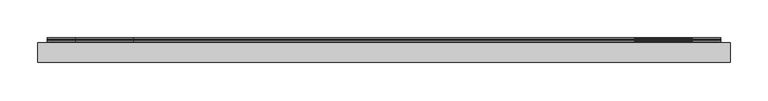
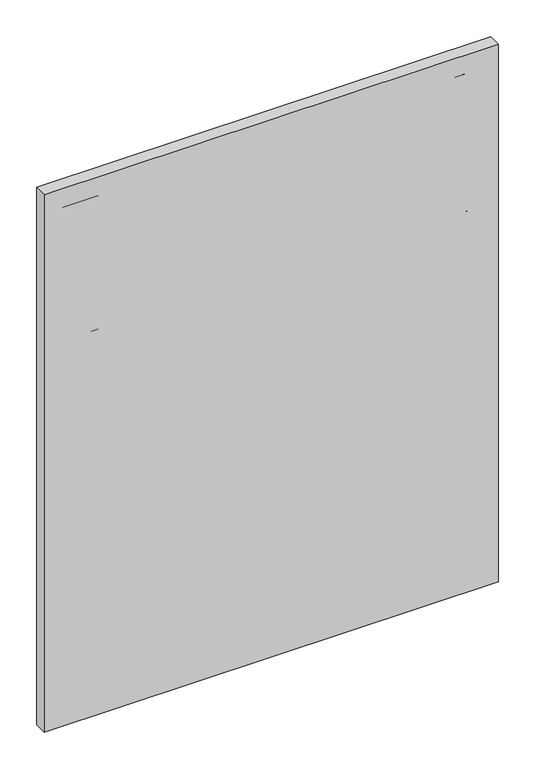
"""IFC4 building model written with IfcOpenShell, lengths in millimetres: furniture geometry, Geiger_GeigerOneCasegoods_WallTileTopTileorWallMounted : Vertical Veneer 36Wx 1.25Dx 45H."""

from ifc_helpers import new_model, si_unit, point, frame, frame_2d, origin, origin_with_axes, place, context, project, spatial, polyline, circle_curve, trimmed, segment, composite_curve, outline, extrude, source, transform, mapped, element, save


def furniture_460bbc34(model_context):
    return source(origin(), model_context, "Body", "SweptSolid", [
        extrude(outline(composite_curve([segment(polyline([(2.8956, 38.227), (2.8956, 31.2928), (3.7084, 30.5054), (5.6134, 30.5054), (6.4008, 29.6926), (6.4008, -2.0066), (5.1054, -2.0066), (3.5052, -0.4064), (3.5052, 24.1808), (2.6924, 24.9936), (0.8128, 24.9936), (0.0, 25.781), (0.0, 39.1922)]), True, "CONTINUOUS"), segment(trimmed(circle_curve(frame_2d((0.8034421, 39.1828421)), 0.8034966), [point((0.0, 39.1922))], [point((1.3716, 39.751))], False, "CARTESIAN"), True, "CONTINUOUS"), segment(polyline([(1.3716, 39.751), (2.8956, 38.227)]), True, "CONTINUOUS")], self_intersect=False)), frame((12.5, 0.0, 0.0), z_axis=(1.0, 0.0, 0.0), x_axis=(0.0, 1.0, 0.0)), (0.0, 0.0, 1.0), 888.0),
        extrude(outline(composite_curve([segment(polyline([(-2.8956, 808.354), (-2.8956, 832.9412), (-1.2954, 834.5414), (0.0, 834.5414), (0.0, 802.8422), (-0.7864312, 802.0304), (-2.6913677, 802.0304), (-3.5052, 801.242), (-3.5052, 794.3078), (-5.0292, 792.7838)]), True, "CONTINUOUS"), segment(trimmed(circle_curve(frame_2d((-5.5973579, 793.3519579)), 0.8034966), [point((-5.0292, 792.7838))], [point((-6.4008, 793.3426))], False, "CARTESIAN"), True, "CONTINUOUS"), segment(polyline([(-6.4008, 793.3426), (-6.4008, 806.7538), (-5.588, 807.5412), (-3.7084, 807.5412), (-2.8956, 808.354)]), True, "CONTINUOUS")], self_intersect=False)), frame((787.0, 0.0, 0.0), z_axis=(1.0, 0.0, 0.0), x_axis=(0.0, 1.0, 0.0)), (0.0, 0.0, 1.0), 76.0),
        extrude(outline(composite_curve([segment(polyline([(3.5052, 794.3078), (3.5052, 801.242), (2.6913677, 802.0304), (0.7864312, 802.0304), (0.0, 802.8422), (0.0, 834.5414), (1.2954, 834.5414), (2.8956, 832.9412), (2.8956, 808.354), (3.7084, 807.5412), (5.588, 807.5412), (6.4008, 806.7538), (6.4008, 793.3426)]), True, "CONTINUOUS"), segment(trimmed(circle_curve(frame_2d((5.5973579, 793.3519579)), 0.8034966), [point((6.4008, 793.3426))], [point((5.0292, 792.7838))], False, "CARTESIAN"), True, "CONTINUOUS"), segment(polyline([(5.0292, 792.7838), (3.5052, 794.3078)]), True, "CONTINUOUS")], self_intersect=False)), frame((50.0, 0.0, 0.0), z_axis=(1.0, 0.0, 0.0), x_axis=(0.0, 1.0, 0.0)), (0.0, 0.0, 1.0), 76.0),
        extrude(outline(composite_curve([segment(polyline([(2.8956, 1091.8434), (3.7084, 1091.0306), (5.588, 1091.0306), (6.4008, 1090.2432), (6.4008, 1076.832)]), True, "CONTINUOUS"), segment(trimmed(circle_curve(frame_2d((5.5973579, 1076.8413579)), 0.8034966), [point((6.4008, 1076.832))], [point((5.0292, 1076.2732))], False, "CARTESIAN"), True, "CONTINUOUS"), segment(polyline([(5.0292, 1076.2732), (3.5052, 1077.7972), (3.5052, 1084.7314), (2.6913677, 1085.5198), (0.7864312, 1085.5198), (0.0, 1086.3316), (0.0, 1118.0308), (1.2954, 1118.0308), (2.8956, 1116.4306), (2.8956, 1091.8434)]), True, "CONTINUOUS")], self_intersect=False)), frame((787.0, 0.0, 0.0), z_axis=(1.0, 0.0, 0.0), x_axis=(0.0, 1.0, 0.0)), (0.0, 0.0, 1.0), 76.0),
        extrude(outline(composite_curve([segment(polyline([(3.5052, 1077.7972), (3.5052, 1084.7314), (2.6913677, 1085.5198), (0.7864312, 1085.5198), (0.0, 1086.3316), (0.0, 1118.0308), (1.2954, 1118.0308), (2.8956, 1116.4306), (2.8956, 1091.8434), (3.7084, 1091.0306), (5.588, 1091.0306), (6.4008, 1090.2432), (6.4008, 1076.832)]), True, "CONTINUOUS"), segment(trimmed(circle_curve(frame_2d((5.5973579, 1076.8413579)), 0.8034966), [point((6.4008, 1076.832))], [point((5.0292, 1076.2732))], False, "CARTESIAN"), True, "CONTINUOUS"), segment(polyline([(5.0292, 1076.2732), (3.5052, 1077.7972)]), True, "CONTINUOUS")], self_intersect=False)), frame((50.0, 0.0, 0.0), z_axis=(1.0, 0.0, 0.0), x_axis=(0.0, 1.0, 0.0)), (0.0, 0.0, 1.0), 76.0),
        extrude(outline(composite_curve([segment(polyline([(2.8956, 38.227), (2.8956, 31.2928), (3.7084, 30.5054), (5.6134, 30.5054), (6.4008, 29.6926), (6.4008, -2.0066), (5.1054, -2.0066), (3.5052, -0.4064), (3.5052, 24.1808), (2.6924, 24.9936), (0.8128, 24.9936), (0.0, 25.781), (0.0, 39.1922)]), True, "CONTINUOUS"), segment(trimmed(circle_curve(frame_2d((0.8034421, 39.1828421)), 0.8034966), [point((0.0, 39.1922))], [point((1.3716, 39.751))], False, "CARTESIAN"), True, "CONTINUOUS"), segment(polyline([(1.3716, 39.751), (2.8956, 38.227)]), True, "CONTINUOUS")], self_intersect=False)), frame((12.5, 0.0, 0.0), z_axis=(1.0, 0.0, 0.0), x_axis=(0.0, 1.0, 0.0)), (0.0, 0.0, 1.0), 888.0),
        extrude(outline(composite_curve([segment(polyline([(2.8956, 800.2524), (2.8956, 793.3182), (3.7084, 792.5308), (5.6134, 792.5308), (6.4008, 791.718), (6.4008, 760.0188), (5.1054, 760.0188), (3.5052, 761.619), (3.5052, 786.2062), (2.6924, 787.019), (0.8128, 787.019), (0.0, 787.8064), (0.0, 801.2176)]), True, "CONTINUOUS"), segment(trimmed(circle_curve(frame_2d((0.8034421, 801.2082421)), 0.8034966), [point((0.0, 801.2176))], [point((1.3716, 801.7764))], False, "CARTESIAN"), True, "CONTINUOUS"), segment(polyline([(1.3716, 801.7764), (2.8956, 800.2524)]), True, "CONTINUOUS")], self_intersect=False)), frame((12.5, 0.0, 0.0), z_axis=(1.0, 0.0, 0.0), x_axis=(0.0, 1.0, 0.0)), (0.0, 0.0, 1.0), 888.0),
        extrude(outline(composite_curve([segment(polyline([(2.8956, 1083.7418), (2.8956, 1076.8076), (3.7084, 1076.0202), (5.6134, 1076.0202), (6.4008, 1075.2074), (6.4008, 1043.5082), (5.1054, 1043.5082), (3.5052, 1045.1084), (3.5052, 1069.6956), (2.6924, 1070.5084), (0.8128, 1070.5084), (0.0, 1071.2958), (0.0, 1084.707)]), True, "CONTINUOUS"), segment(trimmed(circle_curve(frame_2d((0.8034421, 1084.6976421)), 0.8034966), [point((0.0, 1084.707))], [point((1.3716, 1085.2658))], False, "CARTESIAN"), True, "CONTINUOUS"), segment(polyline([(1.3716, 1085.2658), (2.8956, 1083.7418)]), True, "CONTINUOUS")], self_intersect=False)), frame((12.5, 0.0, 0.0), z_axis=(1.0, 0.0, 0.0), x_axis=(0.0, 1.0, 0.0)), (0.0, 0.0, 1.0), 888.0),
        extrude(outline(composite_curve([segment(polyline([(2.8956, 46.3286), (3.7084, 45.5158), (5.588, 45.5158), (6.4008, 44.7284), (6.4008, 31.3172)]), True, "CONTINUOUS"), segment(trimmed(circle_curve(frame_2d((5.5973579, 31.3265579)), 0.8034966), [point((6.4008, 31.3172))], [point((5.0292, 30.7584))], False, "CARTESIAN"), True, "CONTINUOUS"), segment(polyline([(5.0292, 30.7584), (3.5052, 32.2824), (3.5052, 39.2166), (2.6913677, 40.005), (0.7864312, 40.005), (0.0, 40.8168), (0.0, 72.516), (1.2954, 72.516), (2.8956, 70.9158), (2.8956, 46.3286)]), True, "CONTINUOUS")], self_intersect=False)), frame((787.0, 0.0, 0.0), z_axis=(1.0, 0.0, 0.0), x_axis=(0.0, 1.0, 0.0)), (0.0, 0.0, 1.0), 76.0),
        extrude(outline(composite_curve([segment(polyline([(3.5052, 32.2824), (3.5052, 39.2166), (2.6913677, 40.005), (0.7864312, 40.005), (0.0, 40.8168), (0.0, 72.516), (1.2954, 72.516), (2.8956, 70.9158), (2.8956, 46.3286), (3.7084, 45.5158), (5.588, 45.5158), (6.4008, 44.7284), (6.4008, 31.3172)]), True, "CONTINUOUS"), segment(trimmed(circle_curve(frame_2d((5.5973579, 31.3265579)), 0.8034966), [point((6.4008, 31.3172))], [point((5.0292, 30.7584))], False, "CARTESIAN"), True, "CONTINUOUS"), segment(polyline([(5.0292, 30.7584), (3.5052, 32.2824)]), True, "CONTINUOUS")], self_intersect=False)), frame((50.0, 0.0, 0.0), z_axis=(1.0, 0.0, 0.0), x_axis=(0.0, 1.0, 0.0)), (0.0, 0.0, 1.0), 76.0),
        extrude(outline(polyline([(913.0, 0.0), (913.0, -26.0), (0.0, -26.0), (0.0, 0.0), (913.0, 0.0)])), origin_with_axes(), (0.0, 0.0, 1.0), 1142.0),
    ])


if __name__ == "__main__":
    model = new_model("IFC4")
    model_context = context("Model", 3, world=origin())
    ifc_project = project(units=[si_unit("LENGTHUNIT", "METRE", prefix="MILLI")], contexts=[model_context])
    site = spatial("IfcSite", under=ifc_project)
    building = spatial("IfcBuilding", under=site)
    placement = place(None, origin())
    furniture_shape = furniture_460bbc34(model_context)
    element("IfcFurniture", 1, ObjectType="Geiger_GeigerOneCasegoods_WallTileTopTileorWallMounted : Vertical Veneer 36Wx 1.25Dx 45H", at=placement, inside=building, context=model_context, shape_type="MappedRepresentation", body=[
        mapped(furniture_shape, transform((0.0, 0.0, 0.0), x_axis=(1.0, 0.0, 0.0), y_axis=(0.0, 1.0, 0.0), z_axis=(0.0, 0.0, 1.0))),
    ])
    save(model, "model.ifc")
